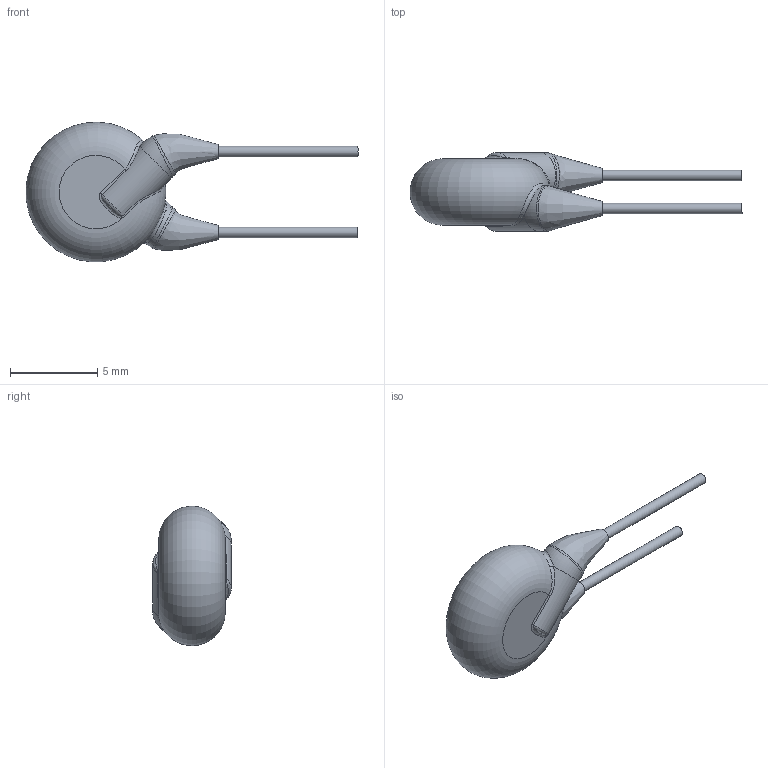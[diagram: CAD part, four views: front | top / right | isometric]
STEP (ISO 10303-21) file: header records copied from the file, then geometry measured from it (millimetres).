
FILE_DESCRIPTION(/* description */ (''),/* implementation_level */ '2;1');
FILE_NAME(/* name */ 'I:\Marketing\M6t1\3D-Models\Zchng-Werk-3\Upload for homepage\Roederstein\WYO\Y5U_250-440\WYO152MCMBD0KR\WYO152MCMBD0KR.stp',/* time_stamp */ '2018-03-21T10:53:50+01:00',/* author */ ('sheinrich'),/* organization */ (''),/* preprocessor_version */ 'ST-DEVELOPER v16.1',/* originating_system */ 'Autodesk Inventor 2016',/* authorisation */ '');
FILE_SCHEMA (('AUTOMOTIVE_DESIGN { 1 0 10303 214 3 1 1 }'));
Length unit declared in the file: centimetre
Products named in the file (1): WYO152MCMBD0KR
Bounding box: 18.99 x 4.5 x 7.99 mm (x, y, z)
Volume: 188.6 mm3; surface area: 224.1 mm2
Topology: 1 solids, 1 shells, 31 faces, 66 edges, 39 vertices
Faces by surface type: bspline 14, plane 6, cylinder 6, torus 5
Full cylindrical faces by diameter (mm): 0.6 x2
Entity records: 1653 total; most frequent: CARTESIAN_POINT 1034, ORIENTED_EDGE 116, DIRECTION 92, EDGE_CURVE 58, AXIS2_PLACEMENT_3D 44, EDGE_LOOP 38, VERTEX_POINT 36, STYLED_ITEM 32
